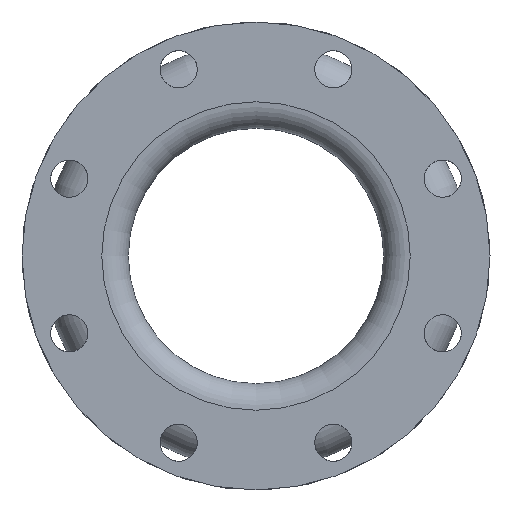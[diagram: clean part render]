
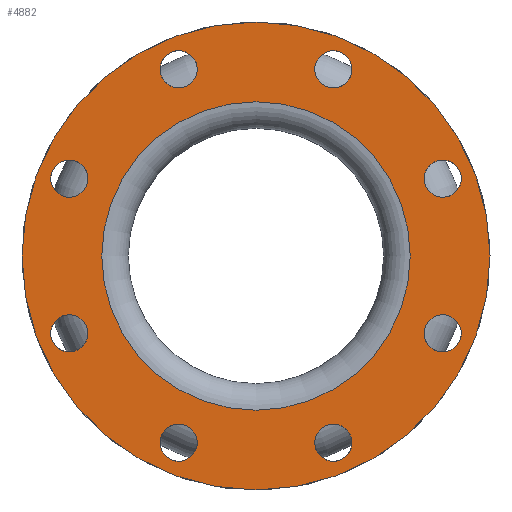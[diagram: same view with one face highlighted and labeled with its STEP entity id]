
A CAD part, left-side view. The second image highlights one B-rep face of the part: STEP entity #4882.
In plain terms, the highlighted planar face has unit normal (-1, 0, 0).
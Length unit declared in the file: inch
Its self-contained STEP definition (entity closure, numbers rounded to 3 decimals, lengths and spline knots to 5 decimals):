
#109=FACE_BOUND('',#878,.T.);
#110=FACE_BOUND('',#879,.T.);
#111=FACE_BOUND('',#880,.T.);
#112=FACE_BOUND('',#881,.T.);
#113=FACE_BOUND('',#882,.T.);
#114=FACE_BOUND('',#883,.T.);
#115=FACE_BOUND('',#884,.T.);
#116=FACE_BOUND('',#885,.T.);
#117=FACE_BOUND('',#886,.T.);
#533=FACE_OUTER_BOUND('',#877,.T.);
#877=EDGE_LOOP('',(#3737));
#878=EDGE_LOOP('',(#3738));
#879=EDGE_LOOP('',(#3739));
#880=EDGE_LOOP('',(#3740));
#881=EDGE_LOOP('',(#3741));
#882=EDGE_LOOP('',(#3742));
#883=EDGE_LOOP('',(#3743));
#884=EDGE_LOOP('',(#3744));
#885=EDGE_LOOP('',(#3745));
#886=EDGE_LOOP('',(#3746));
#1732=CIRCLE('',#5316,0.4375);
#1734=CIRCLE('',#5319,0.4375);
#1736=CIRCLE('',#5322,0.4375);
#1738=CIRCLE('',#5325,0.4375);
#1740=CIRCLE('',#5328,0.4375);
#1742=CIRCLE('',#5331,0.4375);
#1744=CIRCLE('',#5334,0.4375);
#1746=CIRCLE('',#5337,0.4375);
#1778=CIRCLE('',#5392,3.625);
#1779=CIRCLE('',#5394,5.5);
#2174=VERTEX_POINT('',#7967);
#2176=VERTEX_POINT('',#7972);
#2178=VERTEX_POINT('',#7977);
#2180=VERTEX_POINT('',#7982);
#2182=VERTEX_POINT('',#7987);
#2184=VERTEX_POINT('',#7992);
#2186=VERTEX_POINT('',#7997);
#2188=VERTEX_POINT('',#8002);
#2220=VERTEX_POINT('',#8089);
#2221=VERTEX_POINT('',#8092);
#2734=EDGE_CURVE('',#2174,#2174,#1732,.T.);
#2736=EDGE_CURVE('',#2176,#2176,#1734,.T.);
#2738=EDGE_CURVE('',#2178,#2178,#1736,.T.);
#2740=EDGE_CURVE('',#2180,#2180,#1738,.T.);
#2742=EDGE_CURVE('',#2182,#2182,#1740,.T.);
#2744=EDGE_CURVE('',#2184,#2184,#1742,.T.);
#2746=EDGE_CURVE('',#2186,#2186,#1744,.T.);
#2748=EDGE_CURVE('',#2188,#2188,#1746,.T.);
#2780=EDGE_CURVE('',#2220,#2220,#1778,.T.);
#2781=EDGE_CURVE('',#2221,#2221,#1779,.T.);
#3737=ORIENTED_EDGE('',*,*,#2781,.F.);
#3738=ORIENTED_EDGE('',*,*,#2780,.T.);
#3739=ORIENTED_EDGE('',*,*,#2734,.T.);
#3740=ORIENTED_EDGE('',*,*,#2736,.T.);
#3741=ORIENTED_EDGE('',*,*,#2738,.T.);
#3742=ORIENTED_EDGE('',*,*,#2740,.T.);
#3743=ORIENTED_EDGE('',*,*,#2742,.T.);
#3744=ORIENTED_EDGE('',*,*,#2744,.T.);
#3745=ORIENTED_EDGE('',*,*,#2746,.T.);
#3746=ORIENTED_EDGE('',*,*,#2748,.T.);
#4423=PLANE('',#5393);
#4882=ADVANCED_FACE('',(#533,#109,#110,#111,#112,#113,#114,#115,#116,#117),
#4423,.T.);
#5316=AXIS2_PLACEMENT_3D('',#7968,#6431,#6432);
#5319=AXIS2_PLACEMENT_3D('',#7973,#6437,#6438);
#5322=AXIS2_PLACEMENT_3D('',#7978,#6443,#6444);
#5325=AXIS2_PLACEMENT_3D('',#7983,#6449,#6450);
#5328=AXIS2_PLACEMENT_3D('',#7988,#6455,#6456);
#5331=AXIS2_PLACEMENT_3D('',#7993,#6461,#6462);
#5334=AXIS2_PLACEMENT_3D('',#7998,#6467,#6468);
#5337=AXIS2_PLACEMENT_3D('',#8003,#6473,#6474);
#5392=AXIS2_PLACEMENT_3D('',#8090,#6583,#6584);
#5393=AXIS2_PLACEMENT_3D('',#8091,#6585,#6586);
#5394=AXIS2_PLACEMENT_3D('',#8093,#6587,#6588);
#6431=DIRECTION('center_axis',(1.,0.,0.));
#6432=DIRECTION('ref_axis',(0.,-0.707,0.707));
#6437=DIRECTION('center_axis',(1.,0.,0.));
#6438=DIRECTION('ref_axis',(0.,0.,
1.));
#6443=DIRECTION('center_axis',(1.,0.,0.));
#6444=DIRECTION('ref_axis',(0.,0.707,0.707));
#6449=DIRECTION('center_axis',(1.,0.,0.));
#6450=DIRECTION('ref_axis',(0.,1.,0.));
#6455=DIRECTION('center_axis',(1.,0.,0.));
#6456=DIRECTION('ref_axis',(0.,0.707,-0.707));
#6461=DIRECTION('center_axis',(1.,0.,0.));
#6462=DIRECTION('ref_axis',(0.,0.,
-1.));
#6467=DIRECTION('center_axis',(1.,0.,0.));
#6468=DIRECTION('ref_axis',(0.,-0.707,-0.707));
#6473=DIRECTION('center_axis',(1.,0.,0.));
#6474=DIRECTION('ref_axis',(0.,-1.,0.));
#6583=DIRECTION('center_axis',(1.,0.,0.));
#6584=DIRECTION('ref_axis',(0.,0.,-1.));
#6585=DIRECTION('center_axis',(-1.,0.,0.));
#6586=DIRECTION('ref_axis',(0.,0.,1.));
#6587=DIRECTION('center_axis',(1.,0.,0.));
#6588=DIRECTION('ref_axis',(0.,0.,-1.));
#7967=CARTESIAN_POINT('',(-7.,2.12711,-4.69779));
#7968=CARTESIAN_POINT('Origin',(-7.,1.81775,-4.38843));
#7972=CARTESIAN_POINT('',(-7.,-1.81775,-4.82593));
#7973=CARTESIAN_POINT('Origin',(-7.,-1.81775,-4.38843));
#7977=CARTESIAN_POINT('',(-7.,-4.69779,-2.12711));
#7978=CARTESIAN_POINT('Origin',(-7.,-4.38843,-1.81775));
#7982=CARTESIAN_POINT('',(-7.,-4.82593,1.81775));
#7983=CARTESIAN_POINT('Origin',(-7.,-4.38843,1.81775));
#7987=CARTESIAN_POINT('',(-7.,-2.12711,4.69779));
#7988=CARTESIAN_POINT('Origin',(-7.,-1.81775,4.38843));
#7992=CARTESIAN_POINT('',(-7.,1.81775,4.82593));
#7993=CARTESIAN_POINT('Origin',(-7.,1.81775,4.38843));
#7997=CARTESIAN_POINT('',(-7.,4.69779,2.12711));
#7998=CARTESIAN_POINT('Origin',(-7.,4.38843,1.81775));
#8002=CARTESIAN_POINT('',(-7.,4.82593,-1.81775));
#8003=CARTESIAN_POINT('Origin',(-7.,4.38843,-1.81775));
#8089=CARTESIAN_POINT('',(-7.,3.625,0.));
#8090=CARTESIAN_POINT('Origin',(-7.,0.,0.));
#8091=CARTESIAN_POINT('Origin',(-7.,5.5,0.));
#8092=CARTESIAN_POINT('',(-7.,5.5,0.));
#8093=CARTESIAN_POINT('Origin',(-7.,0.,0.));
